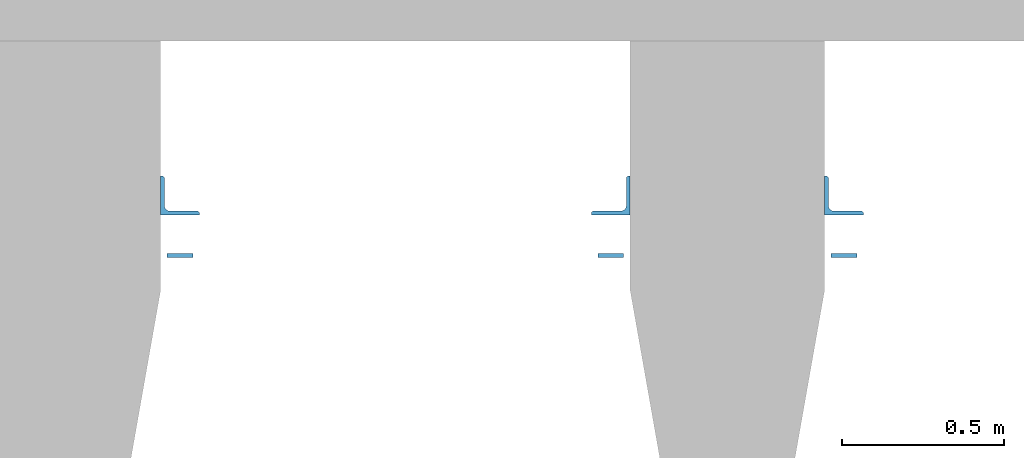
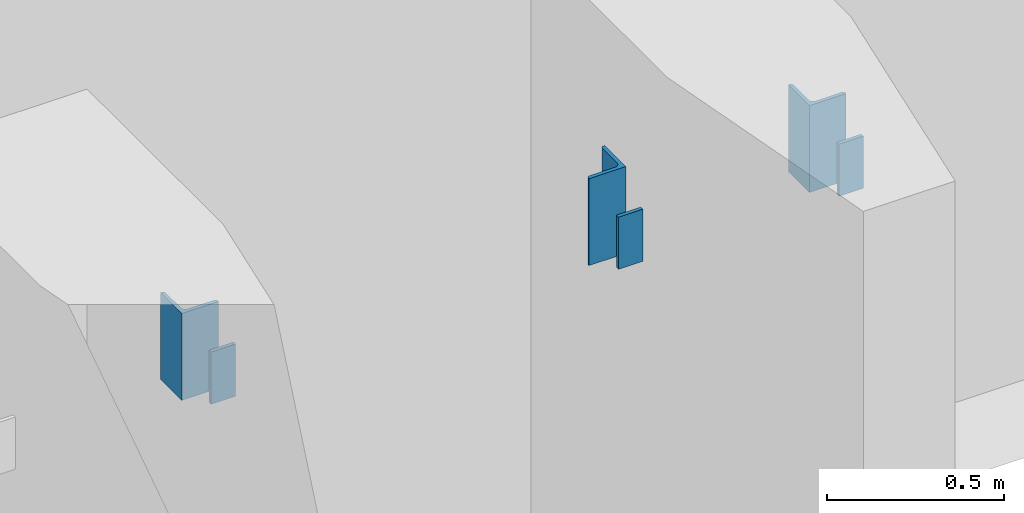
# One storey, part 4 of 22: 6 columns.
"""IFC2X3 building model written with IfcOpenShell, lengths in millimetres."""

from ifc_helpers import new_model, entity, si_unit, converted_unit, derived_unit, direction, frame, frame_2d, origin, place, context, subcontext, project, spatial, polyline, circle_curve, parameter, trimmed, segment, composite_curve, rectangle, outline, extrude, source, transform, mapped, material, type_object, type_shapes, element, save


model = new_model("IFC2X3")

# Units and contexts
model_context = context("Model", 3, precision=0.01, world=origin(), true_north=direction((6.12303176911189e-17, 1.0)))
body_context = subcontext(model_context, "Body", "Model", "MODEL_VIEW")
ifc_project = project(units=[si_unit("LENGTHUNIT", "METRE", prefix="MILLI"), si_unit("AREAUNIT", "SQUARE_METRE"), si_unit("VOLUMEUNIT", "CUBIC_METRE"), converted_unit("PLANEANGLEUNIT", "DEGREE", entity("IfcRatioMeasure", 0.0174532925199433), si_unit("PLANEANGLEUNIT", "RADIAN"), dimensions=[0, 0, 0, 0, 0, 0, 0]), si_unit("MASSUNIT", "GRAM", prefix="KILO"), derived_unit("MASSDENSITYUNIT", [(si_unit("MASSUNIT", "GRAM", prefix="KILO"), 1), (si_unit("LENGTHUNIT", "METRE"), -3)]), si_unit("TIMEUNIT", "SECOND"), si_unit("FREQUENCYUNIT", "HERTZ"), si_unit("THERMODYNAMICTEMPERATUREUNIT", "DEGREE_CELSIUS"), derived_unit("THERMALTRANSMITTANCEUNIT", [(si_unit("MASSUNIT", "GRAM", prefix="KILO"), 1), (si_unit("THERMODYNAMICTEMPERATUREUNIT", "KELVIN"), -1), (si_unit("TIMEUNIT", "SECOND"), -3)]), derived_unit("VOLUMETRICFLOWRATEUNIT", [(si_unit("LENGTHUNIT", "METRE"), 3), (si_unit("TIMEUNIT", "SECOND"), -1)]), si_unit("ELECTRICCURRENTUNIT", "AMPERE"), si_unit("ELECTRICVOLTAGEUNIT", "VOLT"), si_unit("POWERUNIT", "WATT"), si_unit("FORCEUNIT", "NEWTON", prefix="KILO"), si_unit("ILLUMINANCEUNIT", "LUX"), si_unit("LUMINOUSFLUXUNIT", "LUMEN"), si_unit("LUMINOUSINTENSITYUNIT", "CANDELA"), derived_unit("USERDEFINED", [(si_unit("MASSUNIT", "GRAM", prefix="KILO"), -1), (si_unit("LENGTHUNIT", "METRE"), -2), (si_unit("TIMEUNIT", "SECOND"), 3), (si_unit("LUMINOUSFLUXUNIT", "LUMEN"), 1)]), derived_unit("LINEARVELOCITYUNIT", [(si_unit("LENGTHUNIT", "METRE"), 1), (si_unit("TIMEUNIT", "SECOND"), -1)]), si_unit("PRESSUREUNIT", "PASCAL"), derived_unit("USERDEFINED", [(si_unit("LENGTHUNIT", "METRE"), -2), (si_unit("MASSUNIT", "GRAM", prefix="KILO"), 1), (si_unit("TIMEUNIT", "SECOND"), -2)])], contexts=[model_context])

# Site, building, storey
site_placement = place(None, origin())
site = spatial("IfcSite", under=ifc_project, at=site_placement, Name="Default", CompositionType="ELEMENT")
building_placement = place(site_placement, origin())
building = spatial("IfcBuilding", under=site, at=building_placement, Name="niet gebruiken", CompositionType="ELEMENT")
storey_placement = place(building_placement, frame((0.0, 0.0, 15000.0)))
storey = spatial("IfcBuildingStorey", under=building, at=storey_placement, Name="04 vierde verdieping", CompositionType="ELEMENT", Elevation=15000.0)

# Columns
ifc_material = material(Name="NLRS_h2_staal")
column_type_1 = type_object("IfcColumnType", Name="kolomgelijzijdig hoekprofiel LEQU_120x120x12_!", PredefinedType="COLUMN", material=ifc_material)
shared_shape_1 = source(origin(), body_context, "Body", "SweptSolid", [
    extrude(outline(composite_curve([segment(polyline([(-74.6666666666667, -45.3333333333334), (45.3333333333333, -45.3333333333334)]), True, "CONTINUOUS"), segment(polyline([(45.3333333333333, -45.3333333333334), (45.3333333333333, 74.6666666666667)]), True, "CONTINUOUS"), segment(polyline([(45.3333333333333, 74.6666666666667), (41.3333333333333, 74.6666666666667)]), True, "CONTINUOUS"), segment(trimmed(circle_curve(frame_2d((41.3333333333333, 66.6666666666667), x_axis=(0.0, 1.0)), 8.0), [parameter(0.0)], [parameter(90.0)], True, "PARAMETER"), True, "CONTINUOUS"), segment(polyline([(33.3333333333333, 66.6666666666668), (33.3333333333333, -17.3333333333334)]), True, "CONTINUOUS"), segment(trimmed(circle_curve(frame_2d((17.3333333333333, -17.3333333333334), x_axis=(1.0, 0.0)), 16.0), [parameter(270.0)], [parameter(0.0)], True, "PARAMETER"), False, "CONTINUOUS"), segment(polyline([(17.3333333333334, -33.3333333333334), (-66.6666666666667, -33.3333333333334)]), True, "CONTINUOUS"), segment(trimmed(circle_curve(frame_2d((-66.6666666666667, -41.3333333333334), x_axis=(0.0, 1.0)), 7.99999999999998), [parameter(0.0)], [parameter(90.0000000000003)], True, "PARAMETER"), True, "CONTINUOUS"), segment(polyline([(-74.6666666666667, -41.3333333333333), (-74.6666666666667, -45.3333333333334)]), True, "CONTINUOUS")], self_intersect=False)), frame((32.8333333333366, 32.8333333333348, 16235.0), z_axis=(0.0, 0.0, 1.0), x_axis=(0.0, -1.0, 0.0)), (0.0, 0.0, 1.0), 300.00000000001),
])
type_shapes(column_type_1, [shared_shape_1])
column_1_placement = place(storey_placement, frame((137437.5, 1246.5, -15000.0), z_axis=(0.0, 0.0, 1.0), x_axis=(0.0, 1.0, 0.0)))
element("IfcColumn", 1, at=column_1_placement, inside=storey, type_object=column_type_1, material=ifc_material, Name="NLRS_28.11_SCO_TLB_stalen kolom hoekprofiel gelijkzijdig_gen:kolomgelijzijdig hoekprofiel LEQU_120x120x12_!", ObjectType="kolomgelijzijdig hoekprofiel LEQU_120x120x12_!", context=body_context, shape_type="MappedRepresentation", body=[
    mapped(shared_shape_1, transform((0.0, 0.0, 0.0), scale=1.0)),
])
column_type_2 = type_object("IfcColumnType", Name="kolomgelijzijdig hoekprofiel LEQU_120x120x12_!", PredefinedType="COLUMN", material=ifc_material)
shared_shape_2 = source(origin(), body_context, "Body", "SweptSolid", [
    extrude(outline(composite_curve([segment(polyline([(-45.3333333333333, -45.3333333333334), (74.6666666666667, -45.3333333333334)]), True, "CONTINUOUS"), segment(polyline([(74.6666666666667, -45.3333333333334), (74.6666666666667, -41.3333333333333)]), True, "CONTINUOUS"), segment(trimmed(circle_curve(frame_2d((66.6666666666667, -41.3333333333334), x_axis=(1.0, 0.0)), 7.99999999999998), [parameter(0.0)], [parameter(90.0000000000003)], True, "PARAMETER"), True, "CONTINUOUS"), segment(polyline([(66.6666666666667, -33.3333333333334), (-17.3333333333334, -33.3333333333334)]), True, "CONTINUOUS"), segment(trimmed(circle_curve(frame_2d((-17.3333333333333, -17.3333333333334), x_axis=(0.0, -1.0)), 16.0), [parameter(270.0)], [parameter(0.0)], True, "PARAMETER"), False, "CONTINUOUS"), segment(polyline([(-33.3333333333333, -17.3333333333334), (-33.3333333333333, 66.6666666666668)]), True, "CONTINUOUS"), segment(trimmed(circle_curve(frame_2d((-41.3333333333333, 66.6666666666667), x_axis=(1.0, 0.0)), 8.0), [parameter(0.0)], [parameter(90.0)], True, "PARAMETER"), True, "CONTINUOUS"), segment(polyline([(-41.3333333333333, 74.6666666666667), (-45.3333333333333, 74.6666666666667)]), True, "CONTINUOUS"), segment(polyline([(-45.3333333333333, 74.6666666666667), (-45.3333333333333, -45.3333333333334)]), True, "CONTINUOUS")], self_intersect=False)), frame((32.8333333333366, -32.8333333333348, 16235.0), z_axis=(0.0, 0.0, 1.0), x_axis=(0.0, -1.0, 0.0)), (0.0, 0.0, 1.0), 300.00000000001),
])
type_shapes(column_type_2, [shared_shape_2])
for number, where, z_axis, x_axis in (
    (2, (138062.500000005, 1246.49999999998, -15000.0), (0.0, 0.0, 1.0), (0.0, 1.0, 0.0)),
    (3, (136012.500000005, 1246.49999999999, -15000.0), (0.0, 0.0, 1.0), (0.0, 1.0, 0.0)),
):
    element("IfcColumn", number, at=place(storey_placement, frame(where, z_axis=z_axis, x_axis=x_axis)), inside=storey, type_object=column_type_2, material=ifc_material, Name="NLRS_28.11_SCO_TLB_stalen kolom hoekprofiel gelijkzijdig_gen:kolomgelijzijdig hoekprofiel LEQU_120x120x12_!", ObjectType="kolomgelijzijdig hoekprofiel LEQU_120x120x12_!", context=body_context, shape_type="MappedRepresentation", body=[
        mapped(shared_shape_2, transform((0.0, 0.0, 0.0), scale=1.0)),
    ])
column_type_3 = type_object("IfcColumnType", Name="kolom stripstaal RECT_80x12", PredefinedType="COLUMN", material=ifc_material)
shared_shape_3 = source(origin(), body_context, "Body", "SweptSolid", [
    extrude(rectangle(XDim=12.0, YDim=79.9999999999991, at=frame_2d((0.0, -8.66506866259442e-12), x_axis=(1.0, 0.0))), frame((138110.0, 1108.0, 16295.0), z_axis=(0.0, 0.0, 1.0), x_axis=(0.0, -1.0, 0.0)), (0.0, 0.0, 1.0), 180.000000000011),
])
type_shapes(column_type_3, [shared_shape_3])
column_2_placement = place(storey_placement, frame((0.0, 0.0, -15000.0)))
element("IfcColumn", 4, at=column_2_placement, inside=storey, type_object=column_type_3, material=ifc_material, Name="NLRS_28.11_SCO_TLB_stalen kolom stripstaal_gen:kolom stripstaal RECT_80x12", ObjectType="kolom stripstaal RECT_80x12", context=body_context, shape_type="MappedRepresentation", body=[
    mapped(shared_shape_3, transform((0.0, 0.0, 0.0), scale=1.0)),
])
column_type_4 = type_object("IfcColumnType", Name="kolom stripstaal RECT_80x12", PredefinedType="COLUMN", material=ifc_material)
shared_shape_4 = source(origin(), body_context, "Body", "SweptSolid", [
    extrude(rectangle(XDim=12.0, YDim=79.9999999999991, at=frame_2d((0.0, -8.66506866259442e-12), x_axis=(1.0, 0.0))), frame((136060.0, 1108.0, 16295.0), z_axis=(0.0, 0.0, 1.0), x_axis=(0.0, -1.0, 0.0)), (0.0, 0.0, 1.0), 180.000000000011),
])
type_shapes(column_type_4, [shared_shape_4])
column_3_placement = place(storey_placement, frame((0.0, 0.0, -15000.0)))
element("IfcColumn", 5, at=column_3_placement, inside=storey, type_object=column_type_4, material=ifc_material, Name="NLRS_28.11_SCO_TLB_stalen kolom stripstaal_gen:kolom stripstaal RECT_80x12", ObjectType="kolom stripstaal RECT_80x12", context=body_context, shape_type="MappedRepresentation", body=[
    mapped(shared_shape_4, transform((0.0, 0.0, 0.0), scale=1.0)),
])
column_type_5 = type_object("IfcColumnType", Name="kolom stripstaal RECT_80x12", PredefinedType="COLUMN", material=ifc_material)
shared_shape_5 = source(origin(), body_context, "Body", "SweptSolid", [
    extrude(rectangle(XDim=12.0, YDim=79.9999999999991, at=frame_2d((0.0, -8.66506866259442e-12), x_axis=(1.0, 0.0))), frame((137390.0, 1108.0, 16295.0), z_axis=(0.0, 0.0, 1.0), x_axis=(0.0, -1.0, 0.0)), (0.0, 0.0, 1.0), 180.000000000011),
])
type_shapes(column_type_5, [shared_shape_5])
column_4_placement = place(storey_placement, frame((0.0, 0.0, -15000.0)))
element("IfcColumn", 6, at=column_4_placement, inside=storey, type_object=column_type_5, material=ifc_material, Name="NLRS_28.11_SCO_TLB_stalen kolom stripstaal_gen:kolom stripstaal RECT_80x12", ObjectType="kolom stripstaal RECT_80x12", context=body_context, shape_type="MappedRepresentation", body=[
    mapped(shared_shape_5, transform((0.0, 0.0, 0.0), scale=1.0)),
])

save(model, "model.ifc")
